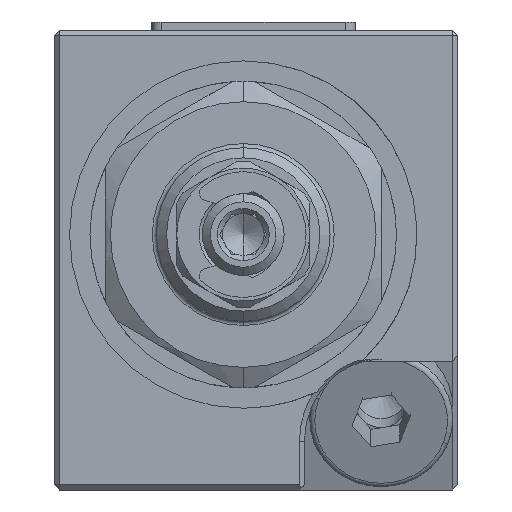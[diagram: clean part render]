
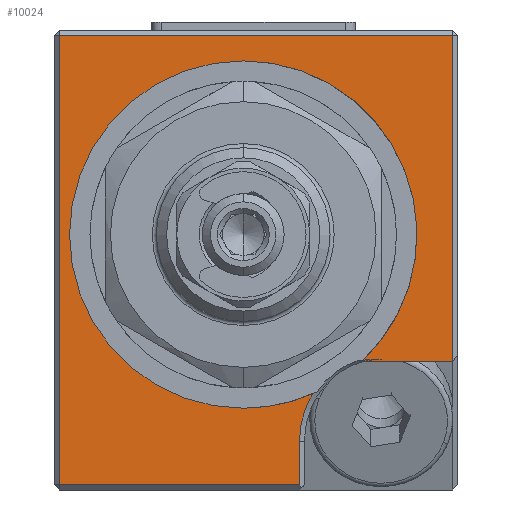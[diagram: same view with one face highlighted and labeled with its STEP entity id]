
A CAD part, left-side view. The second image highlights one B-rep face of the part: STEP entity #10024.
In plain terms, the highlighted planar face has unit normal (-1, 0, 0).
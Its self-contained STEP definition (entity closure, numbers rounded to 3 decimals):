
#109 = VECTOR ( 'NONE', #2012, 1000. ) ;
#271 = CARTESIAN_POINT ( 'NONE',  ( 0., -4.25, -22. ) ) ;
#340 = EDGE_CURVE ( 'NONE', #5398, #14538, #5991, .T. ) ;
#621 = VECTOR ( 'NONE', #12481, 1000. ) ;
#858 = DIRECTION ( 'NONE',  ( -1., 0., 0. ) ) ;
#1139 = EDGE_CURVE ( 'NONE', #14538, #8777, #9495, .T. ) ;
#1270 = EDGE_LOOP ( 'NONE', ( #3213, #2055, #6699, #7726, #1674, #3296, #4099, #15098, #13218, #11492 ) ) ;
#1531 = EDGE_CURVE ( 'NONE', #14893, #13509, #13698, .T. ) ;
#1561 = CARTESIAN_POINT ( 'NONE',  ( 0., 19.25, -22. ) ) ;
#1674 = ORIENTED_EDGE ( 'NONE', *, *, #340, .T. ) ;
#1784 = CARTESIAN_POINT ( 'NONE',  ( 0., -19.25, 22.5 ) ) ;
#2012 = DIRECTION ( 'NONE',  ( 0., 0., 1. ) ) ;
#2055 = ORIENTED_EDGE ( 'NONE', *, *, #3572, .T. ) ;
#2166 = CIRCLE ( 'NONE', #2415, 17. ) ;
#2297 = CARTESIAN_POINT ( 'NONE',  ( 0., 1.25, 2.5 ) ) ;
#2324 = DIRECTION ( 'NONE',  ( 0., 0., 1. ) ) ;
#2371 = CARTESIAN_POINT ( 'NONE',  ( 0., 19.25, -22.5 ) ) ;
#2412 = CARTESIAN_POINT ( 'NONE',  ( 0., -19.25, 22. ) ) ;
#2415 = AXIS2_PLACEMENT_3D ( 'NONE', #12905, #11752, #9169 ) ;
#2446 = VERTEX_POINT ( 'NONE', #6217 ) ;
#2769 = CARTESIAN_POINT ( 'NONE',  ( 0., -4.25, -17.939 ) ) ;
#3213 = ORIENTED_EDGE ( 'NONE', *, *, #1531, .F. ) ;
#3269 = AXIS2_PLACEMENT_3D ( 'NONE', #13753, #858, #5604 ) ;
#3296 = ORIENTED_EDGE ( 'NONE', *, *, #1139, .T. ) ;
#3460 = VECTOR ( 'NONE', #12330, 1000. ) ;
#3572 = EDGE_CURVE ( 'NONE', #14893, #10633, #10043, .T. ) ;
#3733 = CARTESIAN_POINT ( 'NONE',  ( 0., -4.25, -22. ) ) ;
#4069 = LINE ( 'NONE', #13550, #621 ) ;
#4099 = ORIENTED_EDGE ( 'NONE', *, *, #13616, .T. ) ;
#4115 = AXIS2_PLACEMENT_3D ( 'NONE', #6647, #6874, #4562 ) ;
#4562 = DIRECTION ( 'NONE',  ( 0., 0., 1. ) ) ;
#4615 = CARTESIAN_POINT ( 'NONE',  ( 0., -4.81, -14.521 ) ) ;
#5398 = VERTEX_POINT ( 'NONE', #1561 ) ;
#5604 = DIRECTION ( 'NONE',  ( 0., 0., 1. ) ) ;
#5862 = DIRECTION ( 'NONE',  ( 0., 0., -1. ) ) ;
#5870 = DIRECTION ( 'NONE',  ( -1., 0., 0. ) ) ;
#5895 = EDGE_CURVE ( 'NONE', #2446, #12322, #14125, .T. ) ;
#5955 = AXIS2_PLACEMENT_3D ( 'NONE', #2297, #5870, #6261 ) ;
#5991 = LINE ( 'NONE', #3733, #12204 ) ;
#6171 = EDGE_CURVE ( 'NONE', #13509, #9989, #2166, .T. ) ;
#6217 = CARTESIAN_POINT ( 'NONE',  ( 0., 1.25, -14.5 ) ) ;
#6261 = DIRECTION ( 'NONE',  ( 0., 0., 1. ) ) ;
#6563 = CARTESIAN_POINT ( 'NONE',  ( 0., -10.318, -9.957 ) ) ;
#6647 = CARTESIAN_POINT ( 'NONE',  ( 0., 19.75, -22.5 ) ) ;
#6699 = ORIENTED_EDGE ( 'NONE', *, *, #9067, .T. ) ;
#6736 = VECTOR ( 'NONE', #5862, 1000. ) ;
#6874 = DIRECTION ( 'NONE',  ( -1., 0., 0. ) ) ;
#7141 = CARTESIAN_POINT ( 'NONE',  ( 0., -19.25, -9.957 ) ) ;
#7726 = ORIENTED_EDGE ( 'NONE', *, *, #12438, .T. ) ;
#7964 = PLANE ( 'NONE',  #4115 ) ;
#8016 = CARTESIAN_POINT ( 'NONE',  ( 0., -5.57, -13.072 ) ) ;
#8239 = DIRECTION ( 'NONE',  ( 0., -1., 0. ) ) ;
#8777 = VERTEX_POINT ( 'NONE', #10806 ) ;
#9067 = EDGE_CURVE ( 'NONE', #10633, #11604, #4069, .T. ) ;
#9126 = CARTESIAN_POINT ( 'NONE',  ( 0., -4.25, -16.931 ) ) ;
#9169 = DIRECTION ( 'NONE',  ( 0., 0., 1. ) ) ;
#9495 = LINE ( 'NONE', #2769, #12620 ) ;
#9976 = LINE ( 'NONE', #2371, #6736 ) ;
#9989 = VERTEX_POINT ( 'NONE', #14851 ) ;
#10024 = ADVANCED_FACE ( 'NONE', ( #15084 ), #7964, .T. ) ;
#10043 = LINE ( 'NONE', #1784, #109 ) ;
#10633 = VERTEX_POINT ( 'NONE', #2412 ) ;
#10806 = CARTESIAN_POINT ( 'NONE',  ( 0., -4.25, -17.757 ) ) ;
#11492 = ORIENTED_EDGE ( 'NONE', *, *, #6171, .F. ) ;
#11560 = CARTESIAN_POINT ( 'NONE',  ( 0., -4.25, -17.757 ) ) ;
#11604 = VERTEX_POINT ( 'NONE', #14955 ) ;
#11732 = CIRCLE ( 'NONE', #3269, 17. ) ;
#11752 = DIRECTION ( 'NONE',  ( -1., 0., 0. ) ) ;
#12204 = VECTOR ( 'NONE', #8239, 1000. ) ;
#12322 = VERTEX_POINT ( 'NONE', #13497 ) ;
#12325 = B_SPLINE_CURVE_WITH_KNOTS ( 'NONE', 3,
 ( #11560, #9126, #12636, #4615, #12941, #8016 ),
 .UNSPECIFIED., .F., .F.,
 ( 4, 2, 4 ),
 ( 0., 0.5, 1. ),
 .UNSPECIFIED. ) ;
#12330 = DIRECTION ( 'NONE',  ( 0., 1., 0. ) ) ;
#12438 = EDGE_CURVE ( 'NONE', #11604, #5398, #9976, .T. ) ;
#12481 = DIRECTION ( 'NONE',  ( 0., 1., 0. ) ) ;
#12557 = CARTESIAN_POINT ( 'NONE',  ( 0., 19.75, -9.957 ) ) ;
#12612 = EDGE_CURVE ( 'NONE', #9989, #2446, #11732, .T. ) ;
#12620 = VECTOR ( 'NONE', #2324, 1000. ) ;
#12636 = CARTESIAN_POINT ( 'NONE',  ( 0., -4.364, -16.102 ) ) ;
#12905 = CARTESIAN_POINT ( 'NONE',  ( 0., 1.25, 2.5 ) ) ;
#12941 = CARTESIAN_POINT ( 'NONE',  ( 0., -5.142, -13.763 ) ) ;
#13218 = ORIENTED_EDGE ( 'NONE', *, *, #12612, .F. ) ;
#13497 = CARTESIAN_POINT ( 'NONE',  ( 0., -5.57, -13.072 ) ) ;
#13509 = VERTEX_POINT ( 'NONE', #6563 ) ;
#13550 = CARTESIAN_POINT ( 'NONE',  ( 0., 19.75, 22. ) ) ;
#13616 = EDGE_CURVE ( 'NONE', #8777, #12322, #12325, .T. ) ;
#13698 = LINE ( 'NONE', #12557, #3460 ) ;
#13753 = CARTESIAN_POINT ( 'NONE',  ( 0., 1.25, 2.5 ) ) ;
#14125 = CIRCLE ( 'NONE', #5955, 17. ) ;
#14538 = VERTEX_POINT ( 'NONE', #271 ) ;
#14851 = CARTESIAN_POINT ( 'NONE',  ( 0., 1.25, 19.5 ) ) ;
#14893 = VERTEX_POINT ( 'NONE', #7141 ) ;
#14955 = CARTESIAN_POINT ( 'NONE',  ( 0., 19.25, 22. ) ) ;
#15084 = FACE_OUTER_BOUND ( 'NONE', #1270, .T. ) ;
#15098 = ORIENTED_EDGE ( 'NONE', *, *, #5895, .F. ) ;
